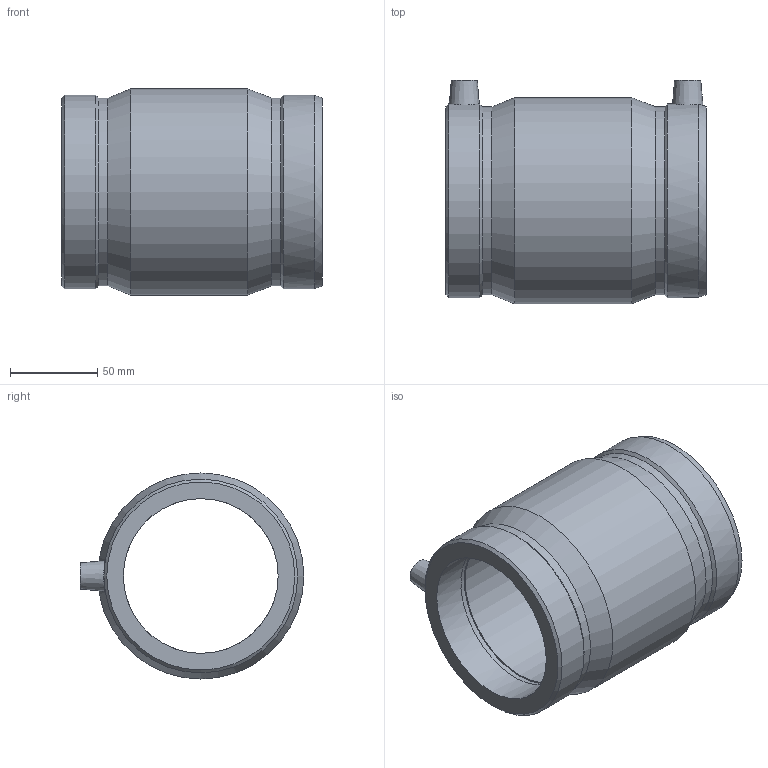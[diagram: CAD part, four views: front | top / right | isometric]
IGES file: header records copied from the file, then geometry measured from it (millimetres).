
Global section: file name: (_AS)5901B004030.ipt; native system: Autodesk Inventor 2019; preprocessor: unknown; author: KIM; date: 20210830.100839; units: inch
Bounding box: 149.1 x 128.14 x 118.11 mm (x, y, z)
Volume: 610894.9 mm3; surface area: 105364.1 mm2
Topology: 1 solids, 1 shells, 34 faces, 74 edges, 48 vertices
Faces by surface type: plane 10, cone 10, cylinder 7, revolution 7
Full cylindrical faces by diameter (mm): 4 x2, 107.693 x2, 111.023 x2, 118.11 x1
